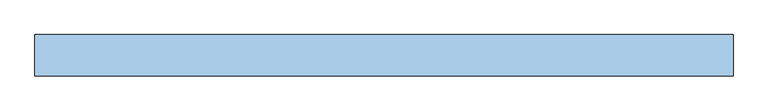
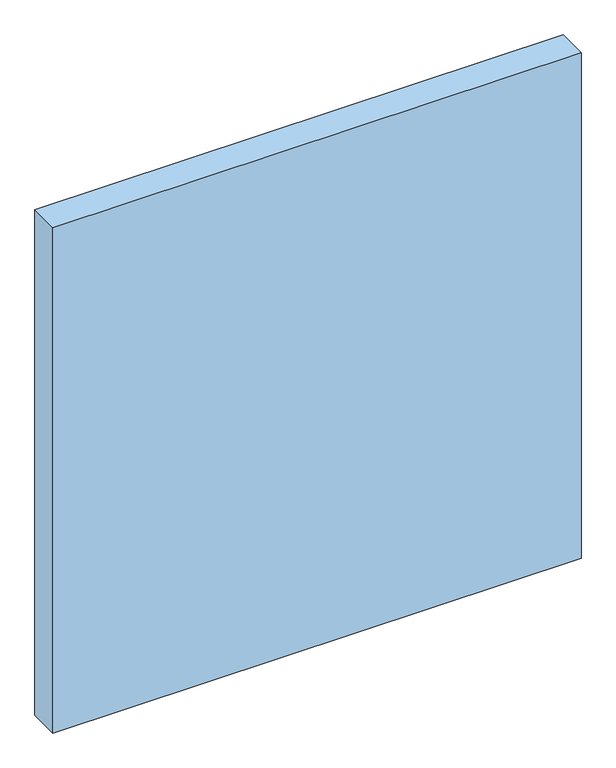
"""IFC4 building model written with IfcOpenShell, lengths in millimetres: window geometry, Dr_Проем-Четверти_окно : ОК."""

from ifc_helpers import new_model, si_unit, frame, origin, place, context, project, spatial, polyline, outline, extrude, source, transform, mapped, element, save


def window_2a8428c4(model_context):
    return source(origin(), model_context, "Body", "SweptSolid", [
        extrude(outline(polyline([(1405.0, -50.0), (-1135.0, -50.0), (-1135.0, 100.0), (1405.0, 100.0), (1405.0, -50.0)])), frame((0.0, 0.0, -60.0), z_axis=(0.0, 0.0, 1.0), x_axis=(1.0, 0.0, 0.0)), (0.0, 0.0, 1.0), 2570.0),
    ])


if __name__ == "__main__":
    model = new_model("IFC4")
    model_context = context("Model", 3, world=origin())
    ifc_project = project(units=[si_unit("LENGTHUNIT", "METRE", prefix="MILLI")], contexts=[model_context])
    site = spatial("IfcSite", under=ifc_project)
    building = spatial("IfcBuilding", under=site)
    placement = place(None, origin())
    window_shape = window_2a8428c4(model_context)
    element("IfcWindow", 1, ObjectType="Dr_Проем-Четверти_окно : ОК", at=placement, inside=building, context=model_context, shape_type="MappedRepresentation", body=[
        mapped(window_shape, transform((0.0, 0.0, 0.0), x_axis=(1.0, 0.0, 0.0), y_axis=(0.0, 1.0, 0.0), z_axis=(0.0, 0.0, 1.0))),
    ])
    save(model, "model.ifc")
